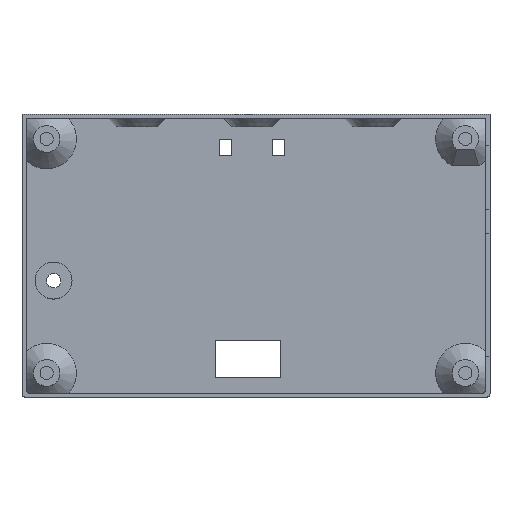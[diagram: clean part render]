
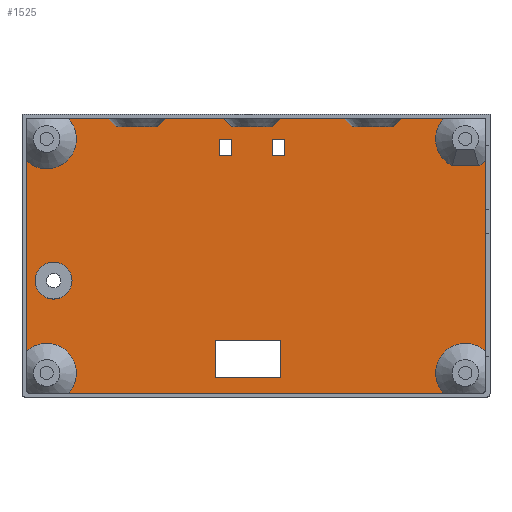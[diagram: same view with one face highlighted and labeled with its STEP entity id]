
A CAD part, top view. The second image highlights one B-rep face of the part: STEP entity #1525.
In plain terms, the highlighted planar face has unit normal (0, 0, 1).
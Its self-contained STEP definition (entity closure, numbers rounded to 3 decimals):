
#52=FACE_BOUND('',#265,.T.);
#53=FACE_BOUND('',#266,.T.);
#54=FACE_BOUND('',#267,.T.);
#55=FACE_BOUND('',#268,.T.);
#103=PLANE('',#1622);
#172=FACE_OUTER_BOUND('',#264,.T.);
#264=EDGE_LOOP('',(#1123,#1124,#1125,#1126,#1127,#1128,#1129,#1130,#1131,
#1132));
#265=EDGE_LOOP('',(#1133,#1134,#1135,#1136));
#266=EDGE_LOOP('',(#1137,#1138,#1139,#1140));
#267=EDGE_LOOP('',(#1141,#1142,#1143,#1144));
#268=EDGE_LOOP('',(#1145));
#391=CIRCLE('',#1620,4.5);
#392=CIRCLE('',#1623,7.25);
#393=CIRCLE('',#1624,7.25);
#394=CIRCLE('',#1625,7.25);
#395=CIRCLE('',#1626,7.25);
#396=CIRCLE('',#1627,7.25);
#435=LINE('',#2205,#592);
#439=LINE('',#2238,#596);
#442=LINE('',#2262,#599);
#443=LINE('',#2266,#600);
#444=LINE('',#2270,#601);
#445=LINE('',#2274,#602);
#446=LINE('',#2276,#603);
#447=LINE('',#2278,#604);
#448=LINE('',#2279,#605);
#449=LINE('',#2282,#606);
#450=LINE('',#2284,#607);
#451=LINE('',#2286,#608);
#452=LINE('',#2287,#609);
#453=LINE('',#2290,#610);
#454=LINE('',#2292,#611);
#455=LINE('',#2294,#612);
#456=LINE('',#2295,#613);
#592=VECTOR('',#1755,10.);
#596=VECTOR('',#1765,10.);
#599=VECTOR('',#1788,10.);
#600=VECTOR('',#1791,10.);
#601=VECTOR('',#1794,10.);
#602=VECTOR('',#1797,10.);
#603=VECTOR('',#1798,10.);
#604=VECTOR('',#1799,10.);
#605=VECTOR('',#1800,10.);
#606=VECTOR('',#1801,10.);
#607=VECTOR('',#1802,10.);
#608=VECTOR('',#1803,10.);
#609=VECTOR('',#1804,10.);
#610=VECTOR('',#1805,10.);
#611=VECTOR('',#1806,10.);
#612=VECTOR('',#1807,10.);
#613=VECTOR('',#1808,10.);
#755=VERTEX_POINT('',#2200);
#756=VERTEX_POINT('',#2204);
#761=VERTEX_POINT('',#2233);
#762=VERTEX_POINT('',#2237);
#768=VERTEX_POINT('',#2254);
#769=VERTEX_POINT('',#2259);
#770=VERTEX_POINT('',#2261);
#771=VERTEX_POINT('',#2263);
#772=VERTEX_POINT('',#2265);
#773=VERTEX_POINT('',#2267);
#774=VERTEX_POINT('',#2269);
#775=VERTEX_POINT('',#2272);
#776=VERTEX_POINT('',#2273);
#777=VERTEX_POINT('',#2275);
#778=VERTEX_POINT('',#2277);
#779=VERTEX_POINT('',#2280);
#780=VERTEX_POINT('',#2281);
#781=VERTEX_POINT('',#2283);
#782=VERTEX_POINT('',#2285);
#783=VERTEX_POINT('',#2288);
#784=VERTEX_POINT('',#2289);
#785=VERTEX_POINT('',#2291);
#786=VERTEX_POINT('',#2293);
#900=EDGE_CURVE('',#756,#755,#435,.T.);
#908=EDGE_CURVE('',#762,#761,#439,.T.);
#915=EDGE_CURVE('',#768,#768,#391,.T.);
#916=EDGE_CURVE('',#756,#761,#392,.T.);
#917=EDGE_CURVE('',#769,#755,#393,.T.);
#918=EDGE_CURVE('',#769,#770,#442,.T.);
#919=EDGE_CURVE('',#771,#770,#394,.T.);
#920=EDGE_CURVE('',#772,#771,#443,.T.);
#921=EDGE_CURVE('',#773,#772,#395,.T.);
#922=EDGE_CURVE('',#773,#774,#444,.T.);
#923=EDGE_CURVE('',#762,#774,#396,.T.);
#924=EDGE_CURVE('',#775,#776,#445,.T.);
#925=EDGE_CURVE('',#776,#777,#446,.T.);
#926=EDGE_CURVE('',#777,#778,#447,.T.);
#927=EDGE_CURVE('',#778,#775,#448,.T.);
#928=EDGE_CURVE('',#779,#780,#449,.T.);
#929=EDGE_CURVE('',#780,#781,#450,.T.);
#930=EDGE_CURVE('',#781,#782,#451,.T.);
#931=EDGE_CURVE('',#782,#779,#452,.T.);
#932=EDGE_CURVE('',#783,#784,#453,.T.);
#933=EDGE_CURVE('',#784,#785,#454,.T.);
#934=EDGE_CURVE('',#785,#786,#455,.T.);
#935=EDGE_CURVE('',#786,#783,#456,.T.);
#1123=ORIENTED_EDGE('',*,*,#916,.F.);
#1124=ORIENTED_EDGE('',*,*,#900,.T.);
#1125=ORIENTED_EDGE('',*,*,#917,.F.);
#1126=ORIENTED_EDGE('',*,*,#918,.T.);
#1127=ORIENTED_EDGE('',*,*,#919,.F.);
#1128=ORIENTED_EDGE('',*,*,#920,.F.);
#1129=ORIENTED_EDGE('',*,*,#921,.F.);
#1130=ORIENTED_EDGE('',*,*,#922,.T.);
#1131=ORIENTED_EDGE('',*,*,#923,.F.);
#1132=ORIENTED_EDGE('',*,*,#908,.T.);
#1133=ORIENTED_EDGE('',*,*,#924,.T.);
#1134=ORIENTED_EDGE('',*,*,#925,.T.);
#1135=ORIENTED_EDGE('',*,*,#926,.T.);
#1136=ORIENTED_EDGE('',*,*,#927,.T.);
#1137=ORIENTED_EDGE('',*,*,#928,.T.);
#1138=ORIENTED_EDGE('',*,*,#929,.T.);
#1139=ORIENTED_EDGE('',*,*,#930,.T.);
#1140=ORIENTED_EDGE('',*,*,#931,.T.);
#1141=ORIENTED_EDGE('',*,*,#932,.T.);
#1142=ORIENTED_EDGE('',*,*,#933,.T.);
#1143=ORIENTED_EDGE('',*,*,#934,.T.);
#1144=ORIENTED_EDGE('',*,*,#935,.T.);
#1145=ORIENTED_EDGE('',*,*,#915,.T.);
#1525=ADVANCED_FACE('',(#172,#52,#53,#54,#55),#103,.T.);
#1620=AXIS2_PLACEMENT_3D('',#2255,#1778,#1779);
#1622=AXIS2_PLACEMENT_3D('',#2257,#1782,#1783);
#1623=AXIS2_PLACEMENT_3D('',#2258,#1784,#1785);
#1624=AXIS2_PLACEMENT_3D('',#2260,#1786,#1787);
#1625=AXIS2_PLACEMENT_3D('',#2264,#1789,#1790);
#1626=AXIS2_PLACEMENT_3D('',#2268,#1792,#1793);
#1627=AXIS2_PLACEMENT_3D('',#2271,#1795,#1796);
#1755=DIRECTION('',(1.,0.,0.));
#1765=DIRECTION('',(0.,-1.,0.));
#1778=DIRECTION('center_axis',(0.,0.,-1.));
#1779=DIRECTION('ref_axis',(-1.,0.,0.));
#1782=DIRECTION('center_axis',(0.,0.,1.));
#1783=DIRECTION('ref_axis',(1.,0.,0.));
#1784=DIRECTION('center_axis',(0.,0.,1.));
#1785=DIRECTION('ref_axis',(-1.,0.,0.));
#1786=DIRECTION('center_axis',(0.,0.,1.));
#1787=DIRECTION('ref_axis',(-1.,0.,0.));
#1788=DIRECTION('',(0.,1.,0.));
#1789=DIRECTION('center_axis',(0.,0.,1.));
#1790=DIRECTION('ref_axis',(-0.639,0.769,0.));
#1791=DIRECTION('',(1.,0.,0.));
#1792=DIRECTION('center_axis',(0.,0.,1.));
#1793=DIRECTION('ref_axis',(-0.639,0.769,0.));
#1794=DIRECTION('',(-1.,0.,0.));
#1795=DIRECTION('center_axis',(0.,0.,1.));
#1796=DIRECTION('ref_axis',(-1.,0.,0.));
#1797=DIRECTION('',(0.,-1.,0.));
#1798=DIRECTION('',(-1.,0.,0.));
#1799=DIRECTION('',(0.,1.,0.));
#1800=DIRECTION('',(1.,0.,0.));
#1801=DIRECTION('',(0.,-1.,0.));
#1802=DIRECTION('',(-1.,0.,0.));
#1803=DIRECTION('',(0.,1.,0.));
#1804=DIRECTION('',(1.,0.,0.));
#1805=DIRECTION('',(0.,1.,0.));
#1806=DIRECTION('',(1.,0.,0.));
#1807=DIRECTION('',(0.,-1.,0.));
#1808=DIRECTION('',(-1.,0.,0.));
#2200=CARTESIAN_POINT('',(100.75,-66.,1.));
#2204=CARTESIAN_POINT('',(9.25,-66.,1.));
#2205=CARTESIAN_POINT('',(27.,-66.,1.));
#2233=CARTESIAN_POINT('',(-1.,-55.75,1.));
#2237=CARTESIAN_POINT('',(-1.,-9.25,1.));
#2238=CARTESIAN_POINT('',(-1.,-15.75,1.));
#2254=CARTESIAN_POINT('',(10.2,-38.5,1.));
#2255=CARTESIAN_POINT('Origin',(5.7,-38.5,1.));
#2257=CARTESIAN_POINT('Origin',(55.,-32.5,1.));
#2258=CARTESIAN_POINT('Origin',(4.,-61.,1.));
#2259=CARTESIAN_POINT('',(111.,-55.75,1.));
#2260=CARTESIAN_POINT('Origin',(106.,-61.,1.));
#2261=CARTESIAN_POINT('',(111.,-9.25,1.));
#2262=CARTESIAN_POINT('',(111.,-49.25,1.));
#2263=CARTESIAN_POINT('',(109.211,-10.5,1.));
#2264=CARTESIAN_POINT('Origin',(106.,-4.,1.));
#2265=CARTESIAN_POINT('',(102.789,-10.5,1.));
#2266=CARTESIAN_POINT('',(79.462,-10.5,1.));
#2267=CARTESIAN_POINT('',(100.75,1.,1.));
#2268=CARTESIAN_POINT('Origin',(106.,-4.,1.));
#2269=CARTESIAN_POINT('',(9.25,1.,1.));
#2270=CARTESIAN_POINT('',(83.,1.,1.));
#2271=CARTESIAN_POINT('Origin',(4.,-4.,1.));
#2272=CARTESIAN_POINT('',(61.077,-53.,1.));
#2273=CARTESIAN_POINT('',(61.077,-62.,1.));
#2274=CARTESIAN_POINT('',(61.077,-42.75,1.));
#2275=CARTESIAN_POINT('',(45.077,-62.,1.));
#2276=CARTESIAN_POINT('',(58.038,-62.,1.));
#2277=CARTESIAN_POINT('',(45.077,-53.,1.));
#2278=CARTESIAN_POINT('',(45.077,-47.25,1.));
#2279=CARTESIAN_POINT('',(50.038,-53.,1.));
#2280=CARTESIAN_POINT('',(62.,-4.,1.));
#2281=CARTESIAN_POINT('',(62.,-8.,1.));
#2282=CARTESIAN_POINT('',(62.,-18.25,1.));
#2283=CARTESIAN_POINT('',(59.,-8.,1.));
#2284=CARTESIAN_POINT('',(58.5,-8.,1.));
#2285=CARTESIAN_POINT('',(59.,-4.,1.));
#2286=CARTESIAN_POINT('',(59.,-20.25,1.));
#2287=CARTESIAN_POINT('',(57.,-4.,1.));
#2288=CARTESIAN_POINT('',(46.,-8.,1.));
#2289=CARTESIAN_POINT('',(46.,-4.,1.));
#2290=CARTESIAN_POINT('',(46.,-20.25,1.));
#2291=CARTESIAN_POINT('',(49.,-4.,1.));
#2292=CARTESIAN_POINT('',(50.5,-4.,1.));
#2293=CARTESIAN_POINT('',(49.,-8.,1.));
#2294=CARTESIAN_POINT('',(49.,-18.25,1.));
#2295=CARTESIAN_POINT('',(52.,-8.,1.));
